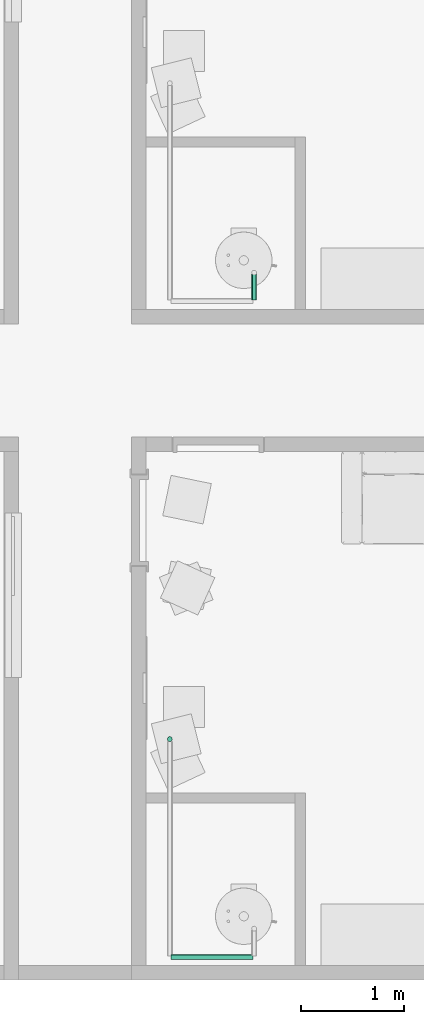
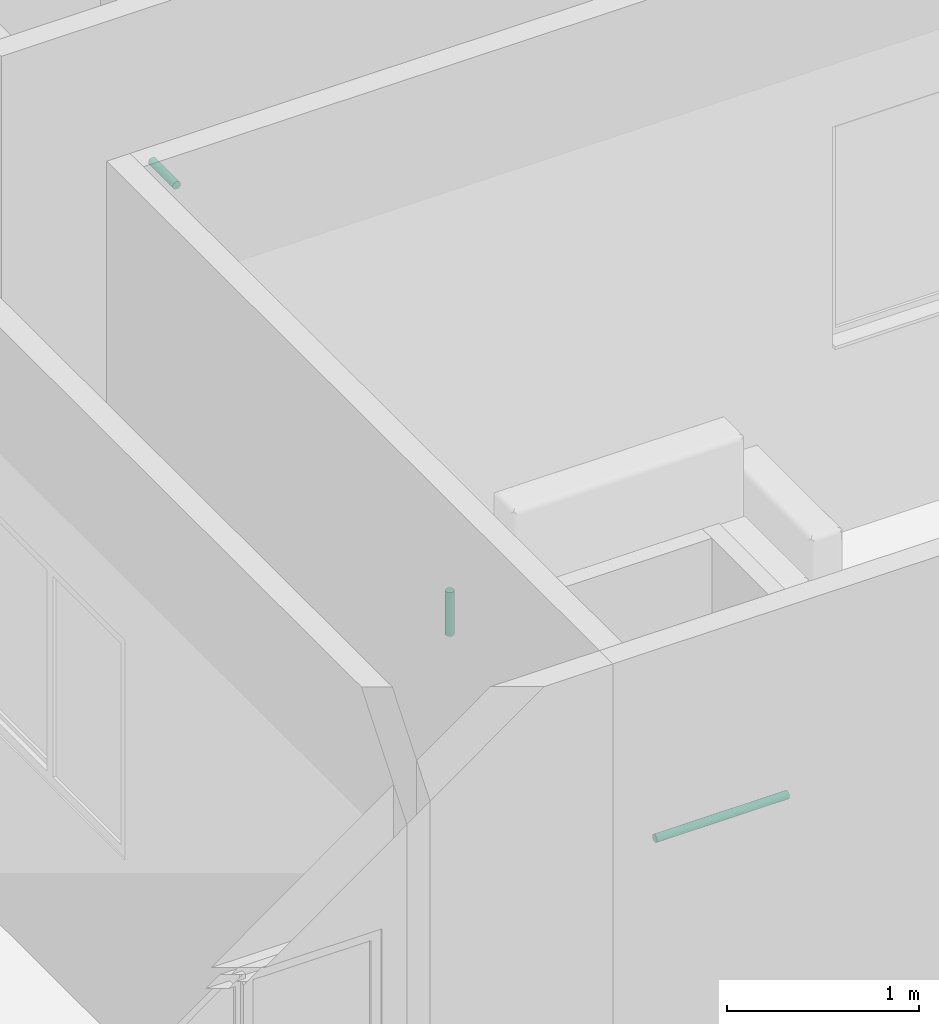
# One storey, part 45 of 72: 3 pipe segments.
"""IFC4 building model written with IfcOpenShell, lengths in centimetres."""

from ifc_helpers import new_model, entity, si_unit, converted_unit, derived_unit, direction, frame, origin, place, context, subcontext, project, spatial, arc, indexed_curve, outline, extrude, type_object, element, save


model = new_model("IFC4")

# Units and contexts
model_context = context("Model", 3, precision=0.001, world=origin(), true_north=direction((6.123233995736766e-17, 1.0)))
body_context = subcontext(model_context, "Body", "Model", "MODEL_VIEW")
ifc_project = project(units=[si_unit("LENGTHUNIT", "METRE", prefix="CENTI"), si_unit("AREAUNIT", "SQUARE_METRE"), si_unit("VOLUMEUNIT", "CUBIC_METRE"), derived_unit("THERMALTRANSMITTANCEUNIT", [(si_unit("MASSUNIT", "GRAM", prefix="KILO"), 1), (si_unit("THERMODYNAMICTEMPERATUREUNIT", "KELVIN"), -1), (si_unit("TIMEUNIT", "SECOND"), -3)]), converted_unit("PLANEANGLEUNIT", "DEGREE", entity("IfcPlaneAngleMeasure", 0.017453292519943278), si_unit("PLANEANGLEUNIT", "RADIAN"), dimensions=[0, 0, 0, 0, 0, 0, 0]), derived_unit("MASSDENSITYUNIT", [(si_unit("MASSUNIT", "GRAM", prefix="KILO"), 1), (si_unit("LENGTHUNIT", "METRE"), -3)]), derived_unit("VAPORPERMEABILITYUNIT", [(si_unit("LENGTHUNIT", "METRE"), -1), (si_unit("TIMEUNIT", "SECOND"), 1)]), derived_unit("USERDEFINED", [(si_unit("MASSUNIT", "GRAM", prefix="KILO"), 1), (si_unit("TIMEUNIT", "SECOND"), -3), (si_unit("LENGTHUNIT", "METRE"), 3), (si_unit("ELECTRICCURRENTUNIT", "AMPERE"), -2)]), derived_unit("SPECIFICHEATCAPACITYUNIT", [(si_unit("THERMODYNAMICTEMPERATUREUNIT", "KELVIN"), -1), (si_unit("LENGTHUNIT", "METRE"), 2), (si_unit("TIMEUNIT", "SECOND"), -2)]), derived_unit("THERMALCONDUCTANCEUNIT", [(si_unit("MASSUNIT", "GRAM", prefix="KILO"), 1), (si_unit("THERMODYNAMICTEMPERATUREUNIT", "KELVIN"), -1), (si_unit("TIMEUNIT", "SECOND"), -3), (si_unit("LENGTHUNIT", "METRE"), 1)]), si_unit("PRESSUREUNIT", "PASCAL"), derived_unit("MODULUSOFELASTICITYUNIT", [(si_unit("MASSUNIT", "GRAM", prefix="KILO"), 1), (si_unit("LENGTHUNIT", "METRE"), -1), (si_unit("TIMEUNIT", "SECOND"), -2)]), derived_unit("THERMALEXPANSIONCOEFFICIENTUNIT", [(si_unit("THERMODYNAMICTEMPERATUREUNIT", "KELVIN"), -1)])], contexts=[model_context])

# Site, building, storey
site_placement = place(None, origin())
site = spatial("IfcSite", under=ifc_project, at=site_placement, Name="Default", CompositionType="ELEMENT")
building_placement = place(site_placement, origin())
building = spatial("IfcBuilding", under=site, at=building_placement, Name="IDS Escape Game Building", CompositionType="ELEMENT")
storey_placement = place(building_placement, frame((0.0, 0.0, 800.0)))
storey = spatial("IfcBuildingStorey", under=building, at=storey_placement, Name="02_Second Floor", CompositionType="ELEMENT", Elevation=800.0)

# Pipe segments
pipe_segment_type = type_object("IfcPipeSegmentType", Name="Pipe Types:Piping Aluminum", PredefinedType="NOTDEFINED")
pipe_segment_1_placement = place(storey_placement, origin())
element("IfcPipeSegment", 1, at=pipe_segment_1_placement, inside=storey, type_object=pipe_segment_type, Name="Pipe Types:Piping Aluminum", ObjectType="Pipe Types:Piping Aluminum", PredefinedType="NOTDEFINED", context=body_context, shape_type="SweptSolid", body=[
    extrude(outline(indexed_curve([(2.412999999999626, -2.165734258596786e-13), (1.7062486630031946, 1.7062486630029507), (3.790034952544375e-13, 2.4130000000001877), (-1.7062486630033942, 1.706248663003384), (-2.4130000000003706, -2.165734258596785e-13), (-1.70624866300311, -1.706248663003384), (3.654676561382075e-13, -2.4129999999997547), (1.7062486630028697, -1.7062486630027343)], segments=[arc(1, 2, 3), arc(3, 4, 5), arc(5, 6, 7), arc(7, 8, 1)], self_intersect=False)), frame((2983.146716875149, 21.264827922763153, 242.0), z_axis=(1.0, 0.0, 0.0), x_axis=(0.0, 1.0, 0.0)), (0.0, 0.0, 1.0), 79.90328312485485),
])
pipe_segment_2_placement = place(storey_placement, origin())
element("IfcPipeSegment", 2, at=pipe_segment_2_placement, inside=storey, type_object=pipe_segment_type, Name="Pipe Types:Piping Aluminum", ObjectType="Pipe Types:Piping Aluminum", PredefinedType="NOTDEFINED", context=body_context, shape_type="SweptSolid", body=[
    extrude(outline(indexed_curve([(2.412999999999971, -2.7071678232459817e-14), (1.7062486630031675, 1.7062486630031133), (0.0, 2.412999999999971), (-1.7062486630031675, 1.7062486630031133), (-2.412999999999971, 0.0), (-1.7062486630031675, -1.7062486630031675), (0.0, -2.413000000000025), (1.7062486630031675, -1.7062486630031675)], segments=[arc(1, 2, 3), arc(3, 4, 5), arc(5, 6, 7), arc(7, 8, 1)], self_intersect=False)), frame((2982.0467168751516, 233.26482792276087, 244.09999999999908), z_axis=(0.0, 0.0, 1.0), x_axis=(-1.0, 0.0, 0.0)), (0.0, 0.0, 1.0), 27.90000000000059),
])
pipe_segment_3_placement = place(storey_placement, origin())
element("IfcPipeSegment", 3, at=pipe_segment_3_placement, inside=storey, type_object=pipe_segment_type, Name="Pipe Types:Piping Aluminum", ObjectType="Pipe Types:Piping Aluminum", PredefinedType="NOTDEFINED", context=body_context, shape_type="SweptSolid", body=[
    extrude(outline(indexed_curve([(2.4129999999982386, 0.0), (1.706248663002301, 1.7062486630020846), (1.2994405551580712e-12, 2.412999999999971), (-1.7062486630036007, 1.7062486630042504), (-2.413000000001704, 0.0), (-1.7062486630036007, -1.7062486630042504), (1.2994405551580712e-12, -2.412999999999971), (1.706248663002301, -1.7062486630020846)], segments=[arc(1, 2, 3), arc(3, 4, 5), arc(5, 6, 7), arc(7, 8, 1)], self_intersect=False)), frame((3064.150000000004, 660.364827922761, 242.0), z_axis=(0.0, 1.0, 0.0), x_axis=(-1.0, 0.0, 0.0)), (0.0, 0.0, 1.0), 25.43517207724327),
])

save(model, "model.ifc")
